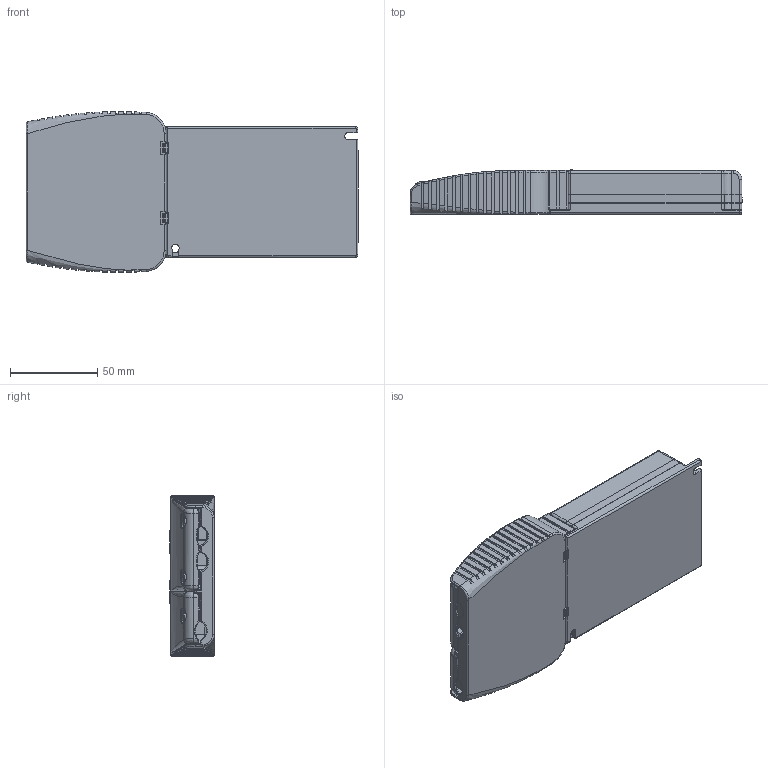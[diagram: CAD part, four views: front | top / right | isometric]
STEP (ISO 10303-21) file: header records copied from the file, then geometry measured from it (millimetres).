
FILE_DESCRIPTION (( 'STEP AP203' ), '1' );
FILE_NAME ('9C1-4553298-000-00.STP', '2025-11-25T07:51:12', ( '' ), ( '' ), 'SwSTEP 2.0', 'SolidWorks 2023', '' );
FILE_SCHEMA (( 'CONFIG_CONTROL_DESIGN' ));
Products named in the file (1): 9C1-4553298-000-00
Bounding box: 190.06 x 25.51 x 92 mm (x, y, z)
Volume: 233035 mm3; surface area: 84409.3 mm2
Topology: 7 solids, 13 shells, 3470 faces, 9063 edges, 5608 vertices
Faces by surface type: plane 1331, bspline 1028, cylinder 784, sphere 133, torus 101, cone 93
Full cylindrical faces by diameter (mm): 2 x4, 2.2 x4, 4 x3, 6.6 x2, 8 x3, 10.7 x2
Entity records: 147588 total; most frequent: CARTESIAN_POINT 74293, ORIENTED_EDGE 17738, DIRECTION 11461, EDGE_CURVE 8869, VERTEX_POINT 5572, VECTOR 4031, LINE 4031, AXIS2_PLACEMENT_3D 3715
